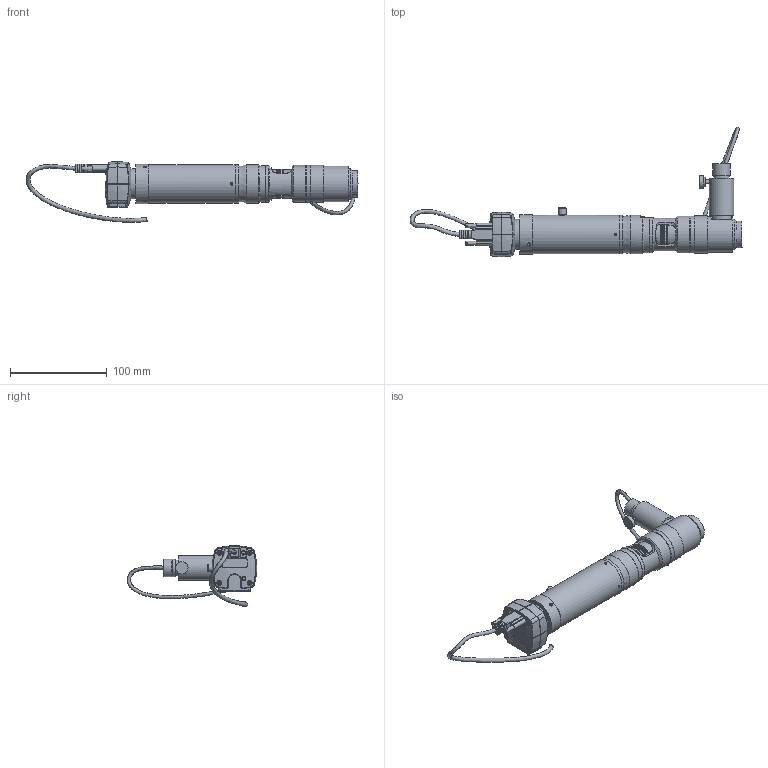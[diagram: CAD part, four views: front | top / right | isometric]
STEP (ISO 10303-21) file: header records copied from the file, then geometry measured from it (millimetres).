
FILE_DESCRIPTION(/* description */ (''),/* implementation_level */ '2;1');
FILE_NAME(/* name */ 'S:\Bureau-Technique\Vidéo\MA 730E-Z1-064-SC.stp',/* time_stamp */ '2018-10-08T08:50:12+02:00',/* author */ ('chu'),/* organization */ ('Marcel Aubert'),/* preprocessor_version */ 'ST-DEVELOPER v17.2',/* originating_system */ 'Autodesk Inventor 2019',/* authorisation */ '');
FILE_SCHEMA (('AUTOMOTIVE_DESIGN { 1 0 10303 214 3 1 1 }'));
Length unit declared in the file: millimetre
Products named in the file (1): Pièce1
Bounding box: 342.6 x 133.72 x 62.71 mm (x, y, z)
Volume: 245666.6 mm3; surface area: 77866.8 mm2
Topology: 3 solids, 15 shells, 1205 faces, 3198 edges, 2105 vertices
Faces by surface type: plane 608, cylinder 350, bspline 126, cone 56, torus 44, sphere 21
Full cylindrical faces by diameter (mm): 0.6 x8, 0.8 x6, 1.88 x4, 2 x3, 2.3 x3, 2.459 x11, 2.5 x2, 3 x5, 3.2 x3, 3.242 x3, 3.3 x1, 3.5 x6, 3.9 x2, 4 x4, 5 x1, 6 x1, 6.7 x1, 7.1 x2, 7.4 x2, 7.5 x1, 7.9 x1, 8 x2, 8.6 x3, 9.6 x1, 10 x1, 12.7 x1, 12.93 x1, 13 x1, 14 x2, 15 x1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
Entity records: 62341 total; most frequent: CARTESIAN_POINT 31406, ORIENTED_EDGE 6378, DIRECTION 5960, EDGE_CURVE 3189, AXIS2_PLACEMENT_3D 2270, VERTEX_POINT 2105, LINE 1420, VECTOR 1420
